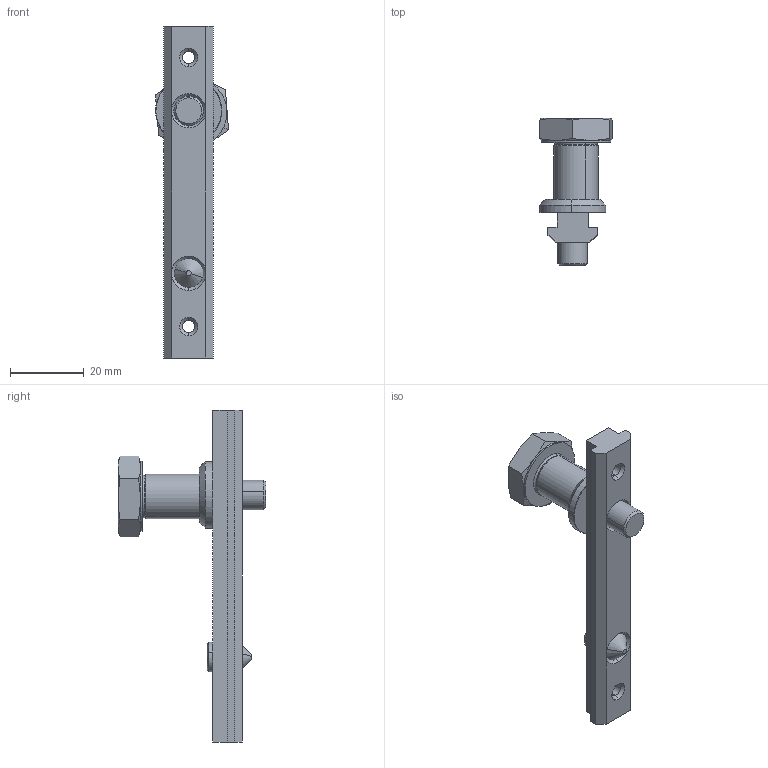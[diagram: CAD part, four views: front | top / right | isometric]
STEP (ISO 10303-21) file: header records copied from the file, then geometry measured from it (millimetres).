
FILE_DESCRIPTION (( 'STEP AP214' ), '1' );
FILE_NAME ('1.8053 Kiinnityssarja 12 säädettävä.STEP', '2025-09-18T07:27:42', ( '' ), ( '' ), 'SwSTEP 2.0', 'SolidWorks 2025', '' );
FILE_SCHEMA (( 'AUTOMOTIVE_DESIGN' ));
Length unit declared in the file: millimetre
Products named in the file (1): 1.8053 Kiinnityssarja 12 säädettävä
Bounding box: 19.79 x 40 x 90 mm (x, y, z)
Volume: 12295 mm3; surface area: 8651.4 mm2
Topology: 5 solids, 5 shells, 123 faces, 272 edges, 162 vertices
Faces by surface type: plane 45, cone 44, cylinder 28, torus 6
Entity records: 4862 total; most frequent: CARTESIAN_POINT 678, DIRECTION 608, ORIENTED_EDGE 544, EDGE_CURVE 272, AXIS2_PLACEMENT_3D 236, VERTEX_POINT 162, EDGE_LOOP 138, LINE 136
